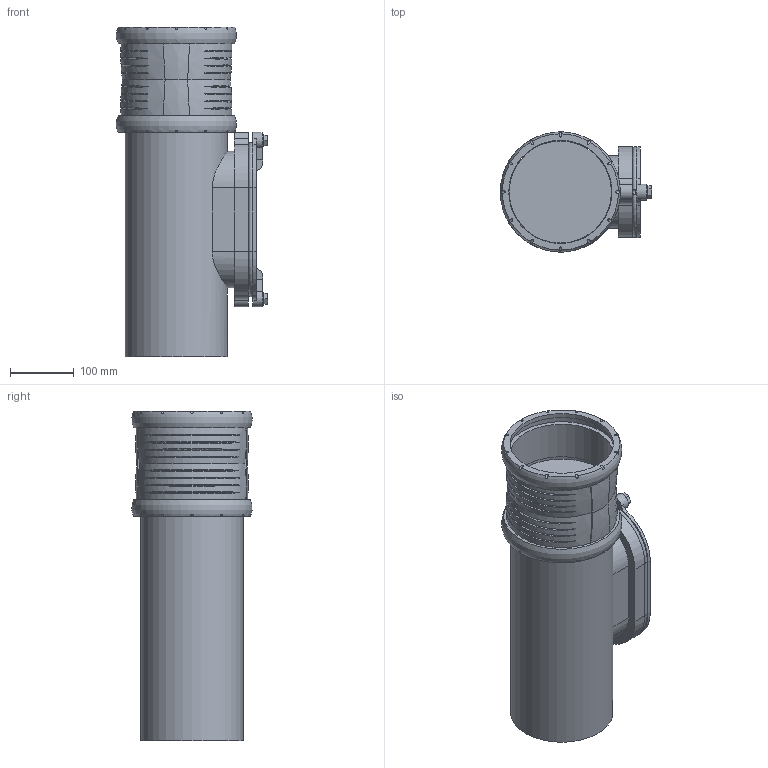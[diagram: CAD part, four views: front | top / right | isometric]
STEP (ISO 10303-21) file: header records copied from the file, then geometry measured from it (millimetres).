
FILE_DESCRIPTION(/* description */ (''),/* implementation_level */ '2;1');
FILE_NAME(/* name */ 'H:\Geberit-Teile\Export\Rein Stück PP_Oval\stp\393703.stp',/* time_stamp */ '2017-02-14T12:55:32+01:00',/* author */ ('seihe2'),/* organization */ (''),/* preprocessor_version */ 'ST-DEVELOPER v15.2',/* originating_system */ 'Autodesk Inventor 2014',/* authorisation */ '');
FILE_SCHEMA (('AUTOMOTIVE_DESIGN { 1 0 10303 214 3 1 1 }'));
Length unit declared in the file: millimetre
Products named in the file (1): 393703
Bounding box: 237.01 x 188.43 x 516.5 mm (x, y, z)
Volume: 10138393.4 mm3; surface area: 578071.1 mm2
Topology: 3 solids, 5 shells, 204 faces, 523 edges, 362 vertices
Faces by surface type: cylinder 83, plane 73, bspline 44, torus 4
Full cylindrical faces by diameter (mm): 10 x4, 20 x2, 160 x1, 161.2 x2, 161.7 x2, 174.9 x2
Entity records: 11106 total; most frequent: CARTESIAN_POINT 6240, ORIENTED_EDGE 996, DIRECTION 863, EDGE_CURVE 498, VERTEX_POINT 353, AXIS2_PLACEMENT_3D 344, EDGE_LOOP 257, STYLED_ITEM 207
